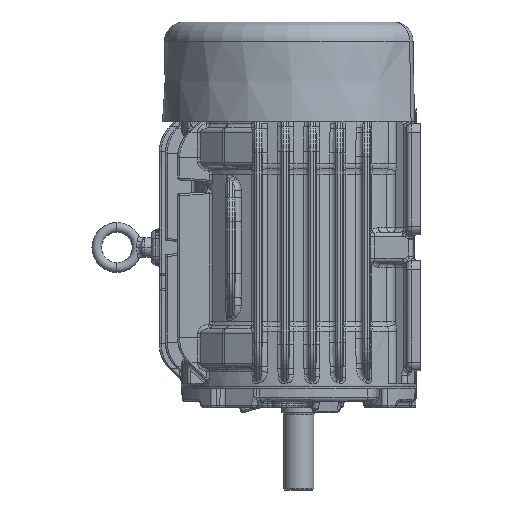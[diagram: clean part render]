
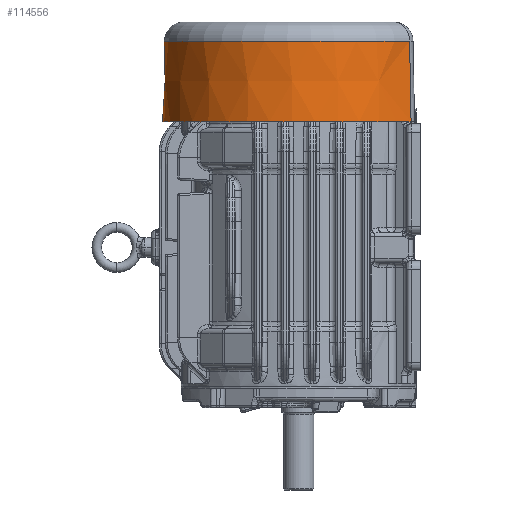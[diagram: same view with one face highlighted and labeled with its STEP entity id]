
A CAD part, left-side view. The second image highlights one B-rep face of the part: STEP entity #114556.
In plain terms, the highlighted conical face has half-angle 1 degrees and reference radius 99.422 mm.
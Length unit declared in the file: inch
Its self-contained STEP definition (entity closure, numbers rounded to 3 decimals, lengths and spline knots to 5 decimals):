
#112432=CARTESIAN_POINT('',(0.,0.,-2.33018));
#112433=DIRECTION('',(0.,0.,1.));
#112434=DIRECTION('',(0.57,-0.822,0.));
#112435=AXIS2_PLACEMENT_3D('',#112432,#112433,#112434);
#112447=CARTESIAN_POINT('',(-2.2303,-3.24143,0.));
#112459=CARTESIAN_POINT('',(2.2303,-3.24143,0.));
#112490=CARTESIAN_POINT('',(-2.21935,-3.19955,
-2.33018));
#112491=CARTESIAN_POINT('',(-2.22026,-3.20302,
-2.13722));
#112492=CARTESIAN_POINT('',(-2.22206,-3.20991,
-1.75403));
#112493=CARTESIAN_POINT('',(-2.22466,-3.21985,
-1.20073));
#112494=CARTESIAN_POINT('',(-2.22735,-3.23013,
-0.62908));
#112495=CARTESIAN_POINT('',(-2.22929,-3.23758,
-0.21413));
#112496=CARTESIAN_POINT('',(-2.2303,-3.24143,0.));
#112498=CARTESIAN_POINT('',(2.2303,-3.24143,0.));
#112499=CARTESIAN_POINT('',(2.22947,-3.23826,
-0.17649));
#112500=CARTESIAN_POINT('',(2.22778,-3.23178,
-0.53696));
#112501=CARTESIAN_POINT('',(2.22516,-3.22176,
-1.09459));
#112502=CARTESIAN_POINT('',(2.22238,-3.21113,
-1.68591));
#112503=CARTESIAN_POINT('',(2.22039,-3.2035,
-2.11077));
#112504=CARTESIAN_POINT('',(2.21935,-3.19955,
-2.33018));
#112506=CARTESIAN_POINT('',(0.,0.,0.));
#112507=DIRECTION('',(0.,0.,1.));
#112508=DIRECTION('',(0.567,-0.824,0.));
#112509=AXIS2_PLACEMENT_3D('',#112506,#112507,#112508);
#113994=VERTEX_POINT('',#112447);
#113997=VERTEX_POINT('',#112490);
#114001=VERTEX_POINT('',#112459);
#114002=VERTEX_POINT('',#112504);
#114545=CARTESIAN_POINT('',(0.,0.,-1.16509));
#114546=DIRECTION('',(0.,0.,1.));
#114547=DIRECTION('',(0.,1.,0.));
#114548=AXIS2_PLACEMENT_3D('',#114545,#114546,#114547);
#114549=CONICAL_SURFACE('',#114548,3.91426,1.);
#114550=ORIENTED_EDGE('',*,*,#114528,.F.);
#114551=ORIENTED_EDGE('',*,*,#114415,.F.);
#114552=ORIENTED_EDGE('',*,*,#114468,.F.);
#114553=ORIENTED_EDGE('',*,*,#114483,.T.);
#114554=EDGE_LOOP('',(#114550,#114551,#114552,#114553));
#114555=FACE_OUTER_BOUND('',#114554,.F.);
#114556=ADVANCED_FACE('',(#114555),#114549,.T.);
#112436=CIRCLE('',#112435,3.89393);
#112497=B_SPLINE_CURVE_WITH_KNOTS('',3,(#112490,#112491,#112492,#112493,#112494,
#112495,#112496),.UNSPECIFIED.,.F.,.F.,(4,1,1,1,4),(0.,0.25,0.5,0.75,
1.),.UNSPECIFIED.);
#112505=B_SPLINE_CURVE_WITH_KNOTS('',3,(#112498,#112499,#112500,#112501,#112502,
#112503,#112504),.UNSPECIFIED.,.F.,.F.,(4,1,1,1,4),(0.,0.25,0.5,0.75,
1.),.UNSPECIFIED.);
#112510=CIRCLE('',#112509,3.9346);
#114415=EDGE_CURVE('',#114002,#113997,#112436,.T.);
#114468=EDGE_CURVE('',#114001,#114002,#112505,.T.);
#114483=EDGE_CURVE('',#114001,#113994,#112510,.T.);
#114528=EDGE_CURVE('',#113997,#113994,#112497,.T.);
